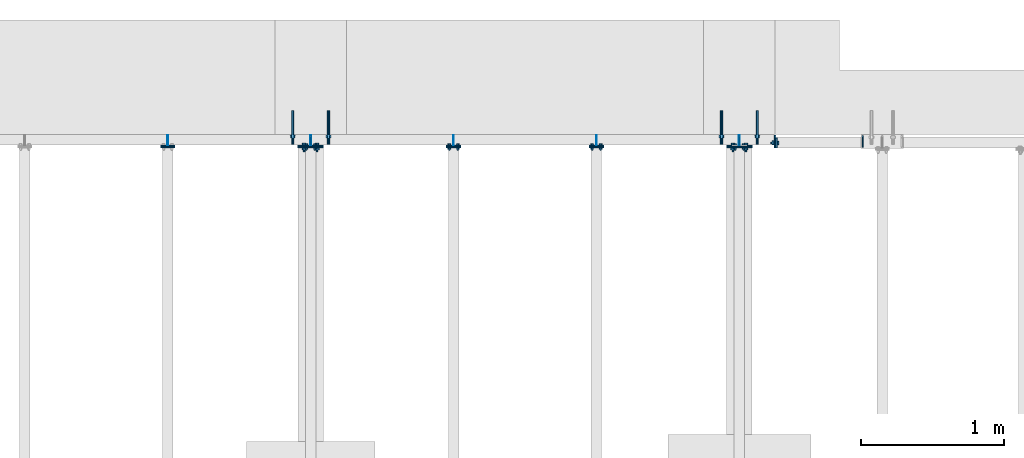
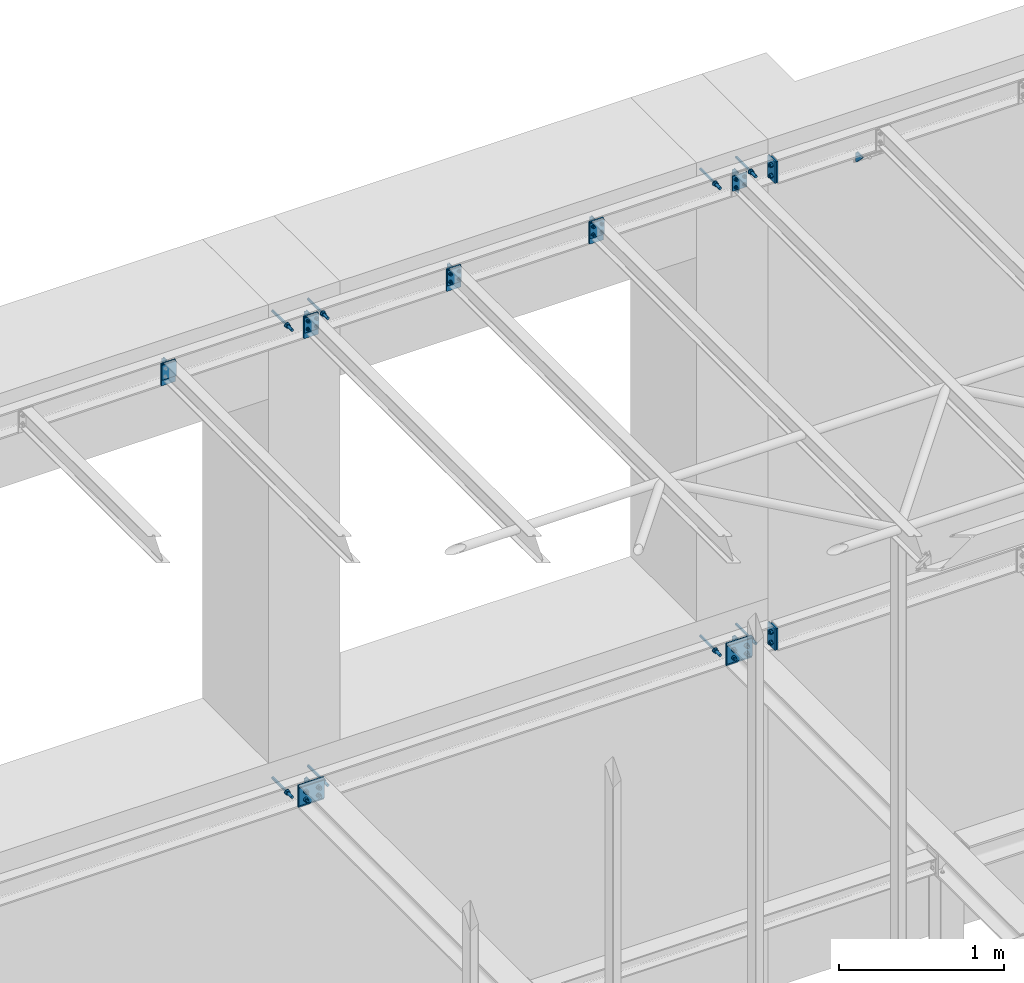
# One storey, part 20 of 23: 25 discrete accessories, 12 mechanical fasteners, 12 elements without a shape of their own.
"""IFC2X3 building model written with IfcOpenShell, lengths in millimetres."""

from ifc_helpers import new_model, si_unit, frame, frame_2d, origin_with_axes, origin_2d_with_axis, place, context, subcontext, project, spatial, polyline, circle_curve, parameter, trimmed, segment, composite_curve, circle, outline, extrude, source, transform, mapped, material, type_object, element, aggregate, save


model = new_model("IFC2X3")

# Units and contexts
model_context = context("Model", 3, precision=1e-05, world=origin_with_axes())
body_context = subcontext(model_context, "Body", "Model", "MODEL_VIEW")
ifc_project = project(units=[si_unit("LENGTHUNIT", "METRE", prefix="MILLI"), si_unit("AREAUNIT", "SQUARE_METRE"), si_unit("VOLUMEUNIT", "CUBIC_METRE"), si_unit("MASSUNIT", "GRAM", prefix="KILO"), si_unit("TIMEUNIT", "SECOND"), si_unit("PLANEANGLEUNIT", "RADIAN"), si_unit("SOLIDANGLEUNIT", "STERADIAN"), si_unit("THERMODYNAMICTEMPERATUREUNIT", "DEGREE_CELSIUS"), si_unit("LUMINOUSINTENSITYUNIT", "LUMEN")], contexts=[model_context])

# Site, building, storey
site_placement = place(None, origin_with_axes())
site = spatial("IfcSite", under=ifc_project, at=site_placement, Name="Undefined", CompositionType="ELEMENT")
building_placement = place(site_placement, origin_with_axes())
building = spatial("IfcBuilding", under=site, at=building_placement, Name="Undefined", CompositionType="ELEMENT")
storey_placement = place(building_placement, origin_with_axes())
storey = spatial("IfcBuildingStorey", under=building, at=storey_placement, Name="Undefined", CompositionType="ELEMENT", Elevation=0.0)

# Assembly, discrete accessory
assembly_1_placement = place(storey_placement, origin_with_axes())
assembly_1 = element("IfcElementAssembly", 1, at=assembly_1_placement, inside=storey, Name="Steel Assembly", AssemblyPlace="NOTDEFINED", PredefinedType="RIGID_FRAME")
ifc_material_1 = material(Name="STEEL/S235JR")
discrete_accessory_type_1 = type_object("IfcDiscreteAccessoryType", Name="PLECH")
discrete_accessory_1_placement = place(assembly_1_placement, frame((12300.0, 3855.0, -170.5), z_axis=(1.0, 0.0, 0.0), x_axis=(0.0, -1.0, 0.0)))
discrete_accessory_1 = element("IfcDiscreteAccessory", 2, at=discrete_accessory_1_placement, type_object=discrete_accessory_type_1, material=ifc_material_1, Name="PLECH", ObjectType="PL10*90", context=body_context, shape_type="SweptSolid", body=[
    extrude(outline(polyline([(0.0, 0.0), (90.0, 4.54747350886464e-13), (90.0, 159.0), (0.0, 159.0), (0.0, 0.0)])), frame((0.0, 0.0, -5.0), z_axis=(0.0, 0.0, 1.0), x_axis=(1.0, 0.0, 0.0)), (0.0, 0.0, 1.0), 10.0),
])

assembly_2_placement = place(storey_placement, origin_with_axes())
assembly_2 = element("IfcElementAssembly", 3, at=assembly_2_placement, inside=storey, Name="Steel Assembly", AssemblyPlace="NOTDEFINED", PredefinedType="RIGID_FRAME")
discrete_accessory_2_placement = place(assembly_2_placement, frame((12310.0, 3835.0, -170.5), z_axis=(1.0, 0.0, 0.0), x_axis=(0.0, -1.0, 0.0)))
discrete_accessory_2 = element("IfcDiscreteAccessory", 4, at=discrete_accessory_2_placement, type_object=discrete_accessory_type_1, material=ifc_material_1, Name="PLECH", ObjectType="PL10*70", context=body_context, shape_type="SweptSolid", body=[
    extrude(outline(polyline([(0.0, 0.0), (70.0, 4.54747350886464e-13), (70.0, 159.0), (0.0, 159.0), (0.0, 0.0)])), frame((0.0, 0.0, -5.0), z_axis=(0.0, 0.0, 1.0), x_axis=(1.0, 0.0, 0.0)), (0.0, 0.0, 1.0), 10.0),
])

assembly_3_placement = place(storey_placement, origin_with_axes())
assembly_3 = element("IfcElementAssembly", 5, at=assembly_3_placement, inside=storey, Name="Steel Assembly", AssemblyPlace="NOTDEFINED", PredefinedType="RIGID_FRAME")
discrete_accessory_3_placement = place(assembly_3_placement, frame((12300.0, 3855.0, 3289.5), z_axis=(1.0, 0.0, 0.0), x_axis=(0.0, -1.0, 0.0)))
discrete_accessory_3 = element("IfcDiscreteAccessory", 6, at=discrete_accessory_3_placement, type_object=discrete_accessory_type_1, material=ifc_material_1, Name="PLECH", ObjectType="PL10*90", context=body_context, shape_type="SweptSolid", body=[
    extrude(outline(polyline([(0.0, 0.0), (90.0, 4.54747350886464e-13), (90.0, 159.0), (0.0, 159.0), (0.0, 0.0)])), frame((0.0, 0.0, -5.0), z_axis=(0.0, 0.0, 1.0), x_axis=(1.0, 0.0, 0.0)), (0.0, 0.0, 1.0), 10.0),
])

assembly_4_placement = place(storey_placement, origin_with_axes())
assembly_4 = element("IfcElementAssembly", 7, at=assembly_4_placement, inside=storey, Name="Steel Assembly", AssemblyPlace="NOTDEFINED", PredefinedType="RIGID_FRAME")
discrete_accessory_4_placement = place(assembly_4_placement, frame((12310.0, 3835.0, 3289.5), z_axis=(1.0, 0.0, 0.0), x_axis=(0.0, -1.0, 0.0)))
discrete_accessory_4 = element("IfcDiscreteAccessory", 8, at=discrete_accessory_4_placement, type_object=discrete_accessory_type_1, material=ifc_material_1, Name="PLECH", ObjectType="PL10*70", context=body_context, shape_type="SweptSolid", body=[
    extrude(outline(polyline([(0.0, 0.0), (70.0, 4.54747350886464e-13), (70.0, 159.0), (0.0, 159.0), (0.0, 0.0)])), frame((0.0, 0.0, -5.0), z_axis=(0.0, 0.0, 1.0), x_axis=(1.0, 0.0, 0.0)), (0.0, 0.0, 1.0), 10.0),
])

assembly_5_placement = place(storey_placement, origin_with_axes())
assembly_5 = element("IfcElementAssembly", 9, at=assembly_5_placement, inside=storey, Name="Steel Assembly", AssemblyPlace="NOTDEFINED", PredefinedType="RIGID_FRAME")
discrete_accessory_5_placement = place(assembly_5_placement, frame((12914.0, 3770.0, 3110.0), z_axis=(-1.0, 0.0, 0.0), x_axis=(0.0, 1.0, 0.0)))
discrete_accessory_5 = element("IfcDiscreteAccessory", 10, at=discrete_accessory_5_placement, type_object=discrete_accessory_type_1, material=ifc_material_1, Name="PLECH", ObjectType="PL8*80", context=body_context, shape_type="SweptSolid", body=[
    extrude(outline(composite_curve([segment(polyline([(0.0, 0.0), (65.0, 0.0)]), True, "CONTINUOUS"), segment(trimmed(circle_curve(frame_2d((80.0, 0.0), x_axis=(-1.0, 0.0)), 15.0), [parameter(0.0)], [parameter(4.71238898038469)], False, "PARAMETER"), True, "CONTINUOUS"), segment(polyline([(80.0, 15.0), (80.0, 80.0), (70.0, 80.0), (0.0, 10.0), (0.0, 0.0)]), True, "DISCONTINUOUS")], self_intersect=False)), frame((0.0, 0.0, -4.0), z_axis=(0.0, 0.0, 1.0), x_axis=(1.0, 0.0, 0.0)), (0.0, 0.0, 1.0), 8.0),
])
aggregate(assembly_5, [discrete_accessory_5])

# Discrete accessory
discrete_accessory_6_placement = place(assembly_1_placement, frame((11960.0, 3780.0, -168.0), z_axis=(0.0, 1.0, 0.0), x_axis=(1.0, 0.0, 0.0)))
discrete_accessory_6 = element("IfcDiscreteAccessory", 11, at=discrete_accessory_6_placement, type_object=discrete_accessory_type_1, material=ifc_material_1, Name="PLECH", ObjectType="PL10*164", context=body_context, shape_type="SweptSolid", body=[
    extrude(outline(polyline([(0.0, 0.0), (180.0, 0.0), (180.0, 164.0), (0.0, 164.0), (0.0, 0.0)])), frame((0.0, 0.0, -5.0), z_axis=(0.0, 0.0, 1.0), x_axis=(1.0, 0.0, 0.0)), (0.0, 0.0, 1.0), 10.0),
])

discrete_accessory_7_placement = place(assembly_1_placement, frame((12050.0, 3785.0, -170.5), z_axis=(-1.0, 0.0, 0.0), x_axis=(0.0, 1.0, 0.0)))
discrete_accessory_7 = element("IfcDiscreteAccessory", 12, at=discrete_accessory_7_placement, type_object=discrete_accessory_type_1, material=ifc_material_1, Name="PLECH", ObjectType="PL8*70", context=body_context, shape_type="SweptSolid", body=[
    extrude(outline(composite_curve([segment(polyline([(0.0, 0.0), (49.5, 0.0)]), True, "CONTINUOUS"), segment(trimmed(circle_curve(frame_2d((69.5, 0.0), x_axis=(-1.0, 0.0)), 20.0), [parameter(0.0)], [parameter(4.71238898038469)], False, "PARAMETER"), True, "CONTINUOUS"), segment(polyline([(69.5, 20.0), (69.5, 139.0)]), True, "CONTINUOUS"), segment(trimmed(circle_curve(frame_2d((69.5, 159.0), x_axis=(0.0, -1.0)), 20.0), [parameter(0.0)], [parameter(4.71238898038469)], False, "PARAMETER"), True, "CONTINUOUS"), segment(polyline([(49.5, 159.0), (0.0, 159.0), (0.0, 0.0)]), True, "DISCONTINUOUS")], self_intersect=False)), frame((0.0, 0.0, -4.0), z_axis=(0.0, 0.0, 1.0), x_axis=(1.0, 0.0, 0.0)), (0.0, 0.0, 1.0), 8.0),
])

# Assembly, discrete accessory
assembly_6_placement = place(storey_placement, origin_with_axes())
assembly_6 = element("IfcElementAssembly", 13, at=assembly_6_placement, inside=storey, Name="Steel Assembly", AssemblyPlace="NOTDEFINED", PredefinedType="RIGID_FRAME")
discrete_accessory_8_placement = place(assembly_6_placement, frame((11960.0, 3771.0, -184.0), z_axis=(0.0, 1.0, 0.0), x_axis=(1.0, 0.0, 0.0)))
discrete_accessory_8 = element("IfcDiscreteAccessory", 14, at=discrete_accessory_8_placement, type_object=discrete_accessory_type_1, material=ifc_material_1, Name="PLECH", ObjectType="PL8*132", context=body_context, shape_type="SweptSolid", body=[
    extrude(outline(polyline([(0.0, 0.0), (180.0, 0.0), (180.0, 132.0), (0.0, 132.0), (0.0, 0.0)])), frame((0.0, 0.0, -4.0), z_axis=(0.0, 0.0, 1.0), x_axis=(1.0, 0.0, 0.0)), (0.0, 0.0, 1.0), 8.0),
])
aggregate(assembly_6, [discrete_accessory_8])

# Discrete accessory
discrete_accessory_9_placement = place(assembly_1_placement, frame((8960.0, 3780.0, -168.0), z_axis=(0.0, 1.0, 0.0), x_axis=(1.0, 0.0, 0.0)))
discrete_accessory_9 = element("IfcDiscreteAccessory", 15, at=discrete_accessory_9_placement, type_object=discrete_accessory_type_1, material=ifc_material_1, Name="PLECH", ObjectType="PL10*164", context=body_context, shape_type="SweptSolid", body=[
    extrude(outline(polyline([(0.0, 0.0), (180.0, 0.0), (180.0, 164.0), (0.0, 164.0), (0.0, 0.0)])), frame((0.0, 0.0, -5.0), z_axis=(0.0, 0.0, 1.0), x_axis=(1.0, 0.0, 0.0)), (0.0, 0.0, 1.0), 10.0),
])

discrete_accessory_10_placement = place(assembly_1_placement, frame((9050.0, 3785.0, -170.5), z_axis=(-1.0, 0.0, 0.0), x_axis=(0.0, 1.0, 0.0)))
discrete_accessory_10 = element("IfcDiscreteAccessory", 16, at=discrete_accessory_10_placement, type_object=discrete_accessory_type_1, material=ifc_material_1, Name="PLECH", ObjectType="PL8*70", context=body_context, shape_type="SweptSolid", body=[
    extrude(outline(composite_curve([segment(polyline([(0.0, 0.0), (49.5, 0.0)]), True, "CONTINUOUS"), segment(trimmed(circle_curve(frame_2d((69.5, 0.0), x_axis=(-1.0, 0.0)), 20.0), [parameter(0.0)], [parameter(4.71238898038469)], False, "PARAMETER"), True, "CONTINUOUS"), segment(polyline([(69.5, 20.0), (69.5, 139.0)]), True, "CONTINUOUS"), segment(trimmed(circle_curve(frame_2d((69.5, 159.0), x_axis=(0.0, -1.0)), 20.0), [parameter(0.0)], [parameter(4.71238898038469)], False, "PARAMETER"), True, "CONTINUOUS"), segment(polyline([(49.5, 159.0), (0.0, 159.0), (0.0, 0.0)]), True, "DISCONTINUOUS")], self_intersect=False)), frame((0.0, 0.0, -4.0), z_axis=(0.0, 0.0, 1.0), x_axis=(1.0, 0.0, 0.0)), (0.0, 0.0, 1.0), 8.0),
])

# Assembly, discrete accessory
assembly_7_placement = place(storey_placement, origin_with_axes())
assembly_7 = element("IfcElementAssembly", 17, at=assembly_7_placement, inside=storey, Name="Steel Assembly", AssemblyPlace="NOTDEFINED", PredefinedType="RIGID_FRAME")
discrete_accessory_11_placement = place(assembly_7_placement, frame((8960.0, 3771.0, -184.0), z_axis=(0.0, 1.0, 0.0), x_axis=(1.0, 0.0, 0.0)))
discrete_accessory_11 = element("IfcDiscreteAccessory", 18, at=discrete_accessory_11_placement, type_object=discrete_accessory_type_1, material=ifc_material_1, Name="PLECH", ObjectType="PL8*132", context=body_context, shape_type="SweptSolid", body=[
    extrude(outline(polyline([(0.0, 0.0), (180.0, 0.0), (180.0, 132.0), (0.0, 132.0), (0.0, 0.0)])), frame((0.0, 0.0, -4.0), z_axis=(0.0, 0.0, 1.0), x_axis=(1.0, 0.0, 0.0)), (0.0, 0.0, 1.0), 8.0),
])
aggregate(assembly_7, [discrete_accessory_11])

# Discrete accessory
discrete_accessory_12_placement = place(assembly_3_placement, frame((12050.0, 3785.0, 3289.5), z_axis=(-1.0, 0.0, 0.0), x_axis=(0.0, 1.0, 0.0)))
discrete_accessory_12 = element("IfcDiscreteAccessory", 19, at=discrete_accessory_12_placement, type_object=discrete_accessory_type_1, material=ifc_material_1, Name="PLECH", ObjectType="PL6*70", context=body_context, shape_type="SweptSolid", body=[
    extrude(outline(composite_curve([segment(polyline([(0.0, 0.0), (49.5, 0.0)]), True, "CONTINUOUS"), segment(trimmed(circle_curve(frame_2d((69.5, 0.0), x_axis=(-1.0, 0.0)), 20.0), [parameter(0.0)], [parameter(4.71238898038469)], False, "PARAMETER"), True, "CONTINUOUS"), segment(polyline([(69.5, 20.0), (69.5, 139.0)]), True, "CONTINUOUS"), segment(trimmed(circle_curve(frame_2d((69.5, 159.0), x_axis=(0.0, -1.0)), 20.0), [parameter(0.0)], [parameter(4.71238898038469)], False, "PARAMETER"), True, "CONTINUOUS"), segment(polyline([(49.5, 159.0), (0.0, 159.0), (0.0, 0.0)]), True, "DISCONTINUOUS")], self_intersect=False)), frame((0.0, 0.0, -3.0), z_axis=(0.0, 0.0, 1.0), x_axis=(1.0, 0.0, 0.0)), (0.0, 0.0, 1.0), 6.0),
])

# Assembly, discrete accessory
assembly_8_placement = place(storey_placement, origin_with_axes())
assembly_8 = element("IfcElementAssembly", 20, at=assembly_8_placement, inside=storey, Name="Steel Assembly", AssemblyPlace="NOTDEFINED", PredefinedType="RIGID_FRAME")
discrete_accessory_13_placement = place(assembly_8_placement, frame((12000.0, 3771.0, 3175.0), z_axis=(0.0, 1.0, 0.0), x_axis=(0.0, 0.0, 1.0)))
discrete_accessory_13 = element("IfcDiscreteAccessory", 21, at=discrete_accessory_13_placement, type_object=discrete_accessory_type_1, material=ifc_material_1, Name="PLECH", ObjectType="PL8*100", context=body_context, shape_type="SweptSolid", body=[
    extrude(outline(polyline([(0.0, 0.0), (110.0, 0.0), (110.0, 100.0), (-9.09494701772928e-13, 100.0), (0.0, 0.0)])), frame((0.0, 0.0, -4.0), z_axis=(0.0, 0.0, 1.0), x_axis=(1.0, 0.0, 0.0)), (0.0, 0.0, 1.0), 8.0),
])
aggregate(assembly_8, [discrete_accessory_13])

# Discrete accessory
discrete_accessory_14_placement = place(assembly_3_placement, frame((11050.0, 3785.0, 3289.5), z_axis=(-1.0, 0.0, 0.0), x_axis=(0.0, 1.0, 0.0)))
discrete_accessory_14 = element("IfcDiscreteAccessory", 22, at=discrete_accessory_14_placement, type_object=discrete_accessory_type_1, material=ifc_material_1, Name="PLECH", ObjectType="PL6*70", context=body_context, shape_type="SweptSolid", body=[
    extrude(outline(composite_curve([segment(polyline([(0.0, 0.0), (49.5, 0.0)]), True, "CONTINUOUS"), segment(trimmed(circle_curve(frame_2d((69.5, 0.0), x_axis=(-1.0, 0.0)), 20.0), [parameter(0.0)], [parameter(4.71238898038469)], False, "PARAMETER"), True, "CONTINUOUS"), segment(polyline([(69.5, 20.0), (69.5, 139.0)]), True, "CONTINUOUS"), segment(trimmed(circle_curve(frame_2d((69.5, 159.0), x_axis=(0.0, -1.0)), 20.0), [parameter(0.0)], [parameter(4.71238898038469)], False, "PARAMETER"), True, "CONTINUOUS"), segment(polyline([(49.5, 159.0), (0.0, 159.0), (0.0, 0.0)]), True, "DISCONTINUOUS")], self_intersect=False)), frame((0.0, 0.0, -3.0), z_axis=(0.0, 0.0, 1.0), x_axis=(1.0, 0.0, 0.0)), (0.0, 0.0, 1.0), 6.0),
])

# Assembly, discrete accessory
assembly_9_placement = place(storey_placement, origin_with_axes())
assembly_9 = element("IfcElementAssembly", 23, at=assembly_9_placement, inside=storey, Name="Steel Assembly", AssemblyPlace="NOTDEFINED", PredefinedType="RIGID_FRAME")
discrete_accessory_15_placement = place(assembly_9_placement, frame((11000.0, 3771.0, 3175.0), z_axis=(0.0, 1.0, 0.0), x_axis=(0.0, 0.0, 1.0)))
discrete_accessory_15 = element("IfcDiscreteAccessory", 24, at=discrete_accessory_15_placement, type_object=discrete_accessory_type_1, material=ifc_material_1, Name="PLECH", ObjectType="PL8*100", context=body_context, shape_type="SweptSolid", body=[
    extrude(outline(polyline([(0.0, 0.0), (110.0, 0.0), (110.0, 100.0), (-9.09494701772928e-13, 100.0), (0.0, 0.0)])), frame((0.0, 0.0, -4.0), z_axis=(0.0, 0.0, 1.0), x_axis=(1.0, 0.0, 0.0)), (0.0, 0.0, 1.0), 8.0),
])
aggregate(assembly_9, [discrete_accessory_15])

# Discrete accessory
discrete_accessory_16_placement = place(assembly_3_placement, frame((11000.0, 3780.0, 3128.0), z_axis=(0.0, 1.0, 0.0), x_axis=(0.0, 0.0, 1.0)))
discrete_accessory_16 = element("IfcDiscreteAccessory", 25, at=discrete_accessory_16_placement, type_object=discrete_accessory_type_1, material=ifc_material_1, Name="PLECH", ObjectType="PL10*100", context=body_context, shape_type="SweptSolid", body=[
    extrude(outline(polyline([(0.0, 0.0), (164.0, 4.54747350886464e-13), (164.0, 100.0), (-9.09494701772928e-13, 100.0), (0.0, 0.0)])), frame((0.0, 0.0, -5.0), z_axis=(0.0, 0.0, 1.0), x_axis=(1.0, 0.0, 0.0)), (0.0, 0.0, 1.0), 10.0),
])

discrete_accessory_17_placement = place(assembly_3_placement, frame((10050.0, 3785.0, 3289.5), z_axis=(-1.0, 0.0, 0.0), x_axis=(0.0, 1.0, 0.0)))
discrete_accessory_17 = element("IfcDiscreteAccessory", 26, at=discrete_accessory_17_placement, type_object=discrete_accessory_type_1, material=ifc_material_1, Name="PLECH", ObjectType="PL6*70", context=body_context, shape_type="SweptSolid", body=[
    extrude(outline(composite_curve([segment(polyline([(0.0, 0.0), (49.5, 0.0)]), True, "CONTINUOUS"), segment(trimmed(circle_curve(frame_2d((69.5, 0.0), x_axis=(-1.0, 0.0)), 20.0), [parameter(0.0)], [parameter(4.71238898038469)], False, "PARAMETER"), True, "CONTINUOUS"), segment(polyline([(69.5, 20.0), (69.5, 139.0)]), True, "CONTINUOUS"), segment(trimmed(circle_curve(frame_2d((69.5, 159.0), x_axis=(0.0, -1.0)), 20.0), [parameter(0.0)], [parameter(4.71238898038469)], False, "PARAMETER"), True, "CONTINUOUS"), segment(polyline([(49.5, 159.0), (0.0, 159.0), (0.0, 0.0)]), True, "DISCONTINUOUS")], self_intersect=False)), frame((0.0, 0.0, -3.0), z_axis=(0.0, 0.0, 1.0), x_axis=(1.0, 0.0, 0.0)), (0.0, 0.0, 1.0), 6.0),
])

# Assembly, discrete accessory
assembly_10_placement = place(storey_placement, origin_with_axes())
assembly_10 = element("IfcElementAssembly", 27, at=assembly_10_placement, inside=storey, Name="Steel Assembly", AssemblyPlace="NOTDEFINED", PredefinedType="RIGID_FRAME")
discrete_accessory_18_placement = place(assembly_10_placement, frame((10000.0, 3771.0, 3175.0), z_axis=(0.0, 1.0, 0.0), x_axis=(0.0, 0.0, 1.0)))
discrete_accessory_18 = element("IfcDiscreteAccessory", 28, at=discrete_accessory_18_placement, type_object=discrete_accessory_type_1, material=ifc_material_1, Name="PLECH", ObjectType="PL8*100", context=body_context, shape_type="SweptSolid", body=[
    extrude(outline(polyline([(0.0, 0.0), (110.0, 0.0), (110.0, 100.0), (-9.09494701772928e-13, 100.0), (0.0, 0.0)])), frame((0.0, 0.0, -4.0), z_axis=(0.0, 0.0, 1.0), x_axis=(1.0, 0.0, 0.0)), (0.0, 0.0, 1.0), 8.0),
])
aggregate(assembly_10, [discrete_accessory_18])

# Discrete accessory
discrete_accessory_19_placement = place(assembly_3_placement, frame((10000.0, 3780.0, 3128.0), z_axis=(0.0, 1.0, 0.0), x_axis=(0.0, 0.0, 1.0)))
discrete_accessory_19 = element("IfcDiscreteAccessory", 29, at=discrete_accessory_19_placement, type_object=discrete_accessory_type_1, material=ifc_material_1, Name="PLECH", ObjectType="PL10*100", context=body_context, shape_type="SweptSolid", body=[
    extrude(outline(polyline([(0.0, 0.0), (164.0, 4.54747350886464e-13), (164.0, 100.0), (-9.09494701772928e-13, 100.0), (0.0, 0.0)])), frame((0.0, 0.0, -5.0), z_axis=(0.0, 0.0, 1.0), x_axis=(1.0, 0.0, 0.0)), (0.0, 0.0, 1.0), 10.0),
])

discrete_accessory_20_placement = place(assembly_3_placement, frame((9050.0, 3785.0, 3289.5), z_axis=(-1.0, 0.0, 0.0), x_axis=(0.0, 1.0, 0.0)))
discrete_accessory_20 = element("IfcDiscreteAccessory", 30, at=discrete_accessory_20_placement, type_object=discrete_accessory_type_1, material=ifc_material_1, Name="PLECH", ObjectType="PL6*70", context=body_context, shape_type="SweptSolid", body=[
    extrude(outline(composite_curve([segment(polyline([(0.0, 0.0), (49.5, 0.0)]), True, "CONTINUOUS"), segment(trimmed(circle_curve(frame_2d((69.5, 0.0), x_axis=(-1.0, 0.0)), 20.0), [parameter(0.0)], [parameter(4.71238898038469)], False, "PARAMETER"), True, "CONTINUOUS"), segment(polyline([(69.5, 20.0), (69.5, 139.0)]), True, "CONTINUOUS"), segment(trimmed(circle_curve(frame_2d((69.5, 159.0), x_axis=(0.0, -1.0)), 20.0), [parameter(0.0)], [parameter(4.71238898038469)], False, "PARAMETER"), True, "CONTINUOUS"), segment(polyline([(49.5, 159.0), (0.0, 159.0), (0.0, 0.0)]), True, "DISCONTINUOUS")], self_intersect=False)), frame((0.0, 0.0, -3.0), z_axis=(0.0, 0.0, 1.0), x_axis=(1.0, 0.0, 0.0)), (0.0, 0.0, 1.0), 6.0),
])

# Assembly, discrete accessory
assembly_11_placement = place(storey_placement, origin_with_axes())
assembly_11 = element("IfcElementAssembly", 31, at=assembly_11_placement, inside=storey, Name="Steel Assembly", AssemblyPlace="NOTDEFINED", PredefinedType="RIGID_FRAME")
discrete_accessory_21_placement = place(assembly_11_placement, frame((9000.0, 3771.0, 3175.0), z_axis=(0.0, 1.0, 0.0), x_axis=(0.0, 0.0, 1.0)))
discrete_accessory_21 = element("IfcDiscreteAccessory", 32, at=discrete_accessory_21_placement, type_object=discrete_accessory_type_1, material=ifc_material_1, Name="PLECH", ObjectType="PL8*100", context=body_context, shape_type="SweptSolid", body=[
    extrude(outline(polyline([(0.0, 0.0), (110.0, 0.0), (110.0, 100.0), (-9.09494701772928e-13, 100.0), (0.0, 0.0)])), frame((0.0, 0.0, -4.0), z_axis=(0.0, 0.0, 1.0), x_axis=(1.0, 0.0, 0.0)), (0.0, 0.0, 1.0), 8.0),
])
aggregate(assembly_11, [discrete_accessory_21])

# Discrete accessory
discrete_accessory_22_placement = place(assembly_3_placement, frame((9000.0, 3780.0, 3128.0), z_axis=(0.0, 1.0, 0.0), x_axis=(0.0, 0.0, 1.0)))
discrete_accessory_22 = element("IfcDiscreteAccessory", 33, at=discrete_accessory_22_placement, type_object=discrete_accessory_type_1, material=ifc_material_1, Name="PLECH", ObjectType="PL10*100", context=body_context, shape_type="SweptSolid", body=[
    extrude(outline(polyline([(0.0, 0.0), (164.0, 4.54747350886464e-13), (164.0, 100.0), (-9.09494701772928e-13, 100.0), (0.0, 0.0)])), frame((0.0, 0.0, -5.0), z_axis=(0.0, 0.0, 1.0), x_axis=(1.0, 0.0, 0.0)), (0.0, 0.0, 1.0), 10.0),
])

discrete_accessory_23_placement = place(assembly_3_placement, frame((8050.0, 3785.0, 3289.5), z_axis=(-1.0, 0.0, 0.0), x_axis=(0.0, 1.0, 0.0)))
discrete_accessory_23 = element("IfcDiscreteAccessory", 34, at=discrete_accessory_23_placement, type_object=discrete_accessory_type_1, material=ifc_material_1, Name="PLECH", ObjectType="PL6*70", context=body_context, shape_type="SweptSolid", body=[
    extrude(outline(composite_curve([segment(polyline([(0.0, 0.0), (49.5, 0.0)]), True, "CONTINUOUS"), segment(trimmed(circle_curve(frame_2d((69.5, 0.0), x_axis=(-1.0, 0.0)), 20.0), [parameter(0.0)], [parameter(4.71238898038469)], False, "PARAMETER"), True, "CONTINUOUS"), segment(polyline([(69.5, 20.0), (69.5, 139.0)]), True, "CONTINUOUS"), segment(trimmed(circle_curve(frame_2d((69.5, 159.0), x_axis=(0.0, -1.0)), 20.0), [parameter(0.0)], [parameter(4.71238898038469)], False, "PARAMETER"), True, "CONTINUOUS"), segment(polyline([(49.5, 159.0), (0.0, 159.0), (0.0, 0.0)]), True, "DISCONTINUOUS")], self_intersect=False)), frame((0.0, 0.0, -3.0), z_axis=(0.0, 0.0, 1.0), x_axis=(1.0, 0.0, 0.0)), (0.0, 0.0, 1.0), 6.0),
])

# Assembly, discrete accessory
assembly_12_placement = place(storey_placement, origin_with_axes())
assembly_12 = element("IfcElementAssembly", 35, at=assembly_12_placement, inside=storey, Name="Steel Assembly", AssemblyPlace="NOTDEFINED", PredefinedType="RIGID_FRAME")
discrete_accessory_24_placement = place(assembly_12_placement, frame((8000.0, 3771.0, 3175.0), z_axis=(0.0, 1.0, 0.0), x_axis=(0.0, 0.0, 1.0)))
discrete_accessory_24 = element("IfcDiscreteAccessory", 36, at=discrete_accessory_24_placement, type_object=discrete_accessory_type_1, material=ifc_material_1, Name="PLECH", ObjectType="PL8*100", context=body_context, shape_type="SweptSolid", body=[
    extrude(outline(polyline([(0.0, 0.0), (110.0, 0.0), (110.0, 100.0), (-9.09494701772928e-13, 100.0), (0.0, 0.0)])), frame((0.0, 0.0, -4.0), z_axis=(0.0, 0.0, 1.0), x_axis=(1.0, 0.0, 0.0)), (0.0, 0.0, 1.0), 8.0),
])
aggregate(assembly_12, [discrete_accessory_24])

# Discrete accessory
discrete_accessory_25_placement = place(assembly_3_placement, frame((8000.0, 3780.0, 3128.0), z_axis=(0.0, 1.0, 0.0), x_axis=(0.0, 0.0, 1.0)))
discrete_accessory_25 = element("IfcDiscreteAccessory", 37, at=discrete_accessory_25_placement, type_object=discrete_accessory_type_1, material=ifc_material_1, Name="PLECH", ObjectType="PL10*100", context=body_context, shape_type="SweptSolid", body=[
    extrude(outline(polyline([(0.0, 0.0), (164.0, 4.54747350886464e-13), (164.0, 100.0), (-9.09494701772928e-13, 100.0), (0.0, 0.0)])), frame((0.0, 0.0, -5.0), z_axis=(0.0, 0.0, 1.0), x_axis=(1.0, 0.0, 0.0)), (0.0, 0.0, 1.0), 10.0),
])

# Mechanical fastener
ifc_material_2 = material(Name="Undefined")
discrete_accessory_type_2 = type_object("IfcDiscreteAccessoryType", Name="Bolt assembly")
shared_shape_1 = source(origin_with_axes(), body_context, "Body", "SweptSolid", [
    extrude(circle(Radius=9.0, at=origin_2d_with_axis()), frame((0.0, -0.1, 0.0), z_axis=(0.0, 1.0, 0.0), x_axis=(1.0, 0.0, 0.0)), (0.0, 0.0, 1.0), 10.1),
    extrude(circle(Radius=9.0, at=origin_2d_with_axis()), frame((0.0, -9.9, 0.0), z_axis=(0.0, 1.0, 0.0), x_axis=(1.0, 0.0, 0.0)), (0.0, 0.0, 1.0), 10.0),
    extrude(outline(polyline([(13.85640646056, 0.0), (6.92820323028, 12.0000000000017), (-6.92820323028, 12.0000000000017), (-13.85640646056, 0.0), (-6.92820323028, -12.0000000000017), (6.92820323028, -12.0000000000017), (13.85640646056, 0.0)])), frame((0.0, -23.0, 0.0), z_axis=(0.0, 1.0, 0.0), x_axis=(1.0, 0.0, 0.0)), (0.0, 0.0, 1.0), 10.0),
    extrude(circle(Radius=8.0, at=origin_2d_with_axis()), frame((0.0, -13.0, 0.0), z_axis=(0.0, 1.0, 0.0), x_axis=(1.0, 0.0, 0.0)), (0.0, 0.0, 1.0), 50.0),
    extrude(circle(Radius=15.0, at=origin_2d_with_axis()), frame((0.0, -13.0, 0.0), z_axis=(0.0, 1.0, 0.0), x_axis=(1.0, 0.0, 0.0)), (0.0, 0.0, 1.0), 3.0),
    extrude(circle(Radius=15.0, at=origin_2d_with_axis()), frame((0.0, 10.0, 0.0), z_axis=(0.0, 1.0, 0.0), x_axis=(1.0, 0.0, 0.0)), (0.0, 0.0, 1.0), 3.0),
    extrude(outline(polyline([(15.4441197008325, 0.0), (7.72205985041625, 13.3750000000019), (-7.72205985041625, 13.3750000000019), (-15.4441197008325, 0.0), (-7.72205985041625, -13.3750000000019), (7.72205985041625, -13.3750000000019), (15.4441197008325, 0.0)])), frame((0.0, 13.0, 0.0), z_axis=(0.0, 1.0, 0.0), x_axis=(1.0, 0.0, 0.0)), (0.0, 0.0, 1.0), 13.0),
])
mechanical_fastener_1_placement = place(assembly_2_placement, frame((12305.0, 3800.0, -249.999999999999), z_axis=(0.0, 0.0, 1.0), x_axis=(0.0, 1.0, 0.0)))
mechanical_fastener_1 = element("IfcMechanicalFastener", 38, at=mechanical_fastener_1_placement, type_object=discrete_accessory_type_2, material=ifc_material_2, Name="Bolt assembly", NominalDiameter=16.0, NominalLength=50.0, context=body_context, shape_type="MappedRepresentation", body=[
    mapped(shared_shape_1, transform((0.0, 0.0, -40.0))),
    mapped(shared_shape_1, transform((0.0, 0.0, 40.0))),
])

aggregate(assembly_2, [mechanical_fastener_1, discrete_accessory_2])

mechanical_fastener_2_placement = place(assembly_4_placement, frame((12305.0, 3800.0, 3210.0), z_axis=(0.0, 0.0, 1.0), x_axis=(0.0, 1.0, 0.0)))
mechanical_fastener_2 = element("IfcMechanicalFastener", 39, at=mechanical_fastener_2_placement, type_object=discrete_accessory_type_2, material=ifc_material_2, Name="Bolt assembly", NominalDiameter=16.0, NominalLength=50.0, context=body_context, shape_type="MappedRepresentation", body=[
    mapped(shared_shape_1, transform((0.0, 0.0, -40.0))),
    mapped(shared_shape_1, transform((0.0, 0.0, 40.0))),
])

aggregate(assembly_4, [mechanical_fastener_2, discrete_accessory_4])

shared_shape_2 = source(origin_with_axes(), body_context, "Body", "SweptSolid", [
    extrude(circle(Radius=11.0, at=origin_2d_with_axis()), frame((0.0, -5.5, 0.0), z_axis=(0.0, 1.0, 0.0), x_axis=(1.0, 0.0, 0.0)), (0.0, 0.0, 1.0), 5.6),
    extrude(outline(polyline([(9.81495457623, 0.0), (4.907477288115, 8.5000000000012), (-4.907477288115, 8.5000000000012), (-9.81495457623, 0.0), (-4.907477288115, -8.5000000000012), (4.907477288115, -8.5000000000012), (9.81495457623, 0.0)])), frame((0.0, -173.5, 0.0), z_axis=(0.0, 1.0, 0.0), x_axis=(1.0, 0.0, 0.0)), (0.0, 0.0, 1.0), 168.0),
    extrude(circle(Radius=10.0, at=origin_2d_with_axis()), frame((0.0, -5.5, 0.0), z_axis=(0.0, 1.0, 0.0), x_axis=(1.0, 0.0, 0.0)), (0.0, 0.0, 1.0), 72.0),
    extrude(circle(Radius=18.5, at=origin_2d_with_axis()), frame((0.0, 0.0, 0.0), z_axis=(0.0, 1.0, 0.0), x_axis=(1.0, 0.0, 0.0)), (0.0, 0.0, 1.0), 3.0),
    extrude(outline(polyline([(17.3205080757, 0.0), (8.66025403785, 15.0000000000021), (-8.66025403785, 15.0000000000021), (-17.3205080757, 0.0), (-8.66025403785, -15.0000000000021), (8.66025403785, -15.0000000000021), (17.3205080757, 0.0)])), frame((0.0, 3.0, 0.0), z_axis=(0.0, 1.0, 0.0), x_axis=(1.0, 0.0, 0.0)), (0.0, 0.0, 1.0), 16.0),
])
mechanical_fastener_3_placement = place(assembly_3_placement, frame((11925.0, 3854.5, 3210.0), z_axis=(0.0, 0.0, -1.0), x_axis=(1.0, 0.0, 0.0)))
mechanical_fastener_3 = element("IfcMechanicalFastener", 40, at=mechanical_fastener_3_placement, type_object=discrete_accessory_type_2, material=ifc_material_2, Name="Bolt assembly", NominalDiameter=20.0, NominalLength=72.0, context=body_context, shape_type="MappedRepresentation", body=[
    mapped(shared_shape_2, transform((0.0, 0.0, 0.0))),
    mapped(shared_shape_2, transform((250.0, 0.0, 0.0))),
])

mechanical_fastener_4_placement = place(assembly_3_placement, frame((8925.0, 3854.5, 3210.0), z_axis=(0.0, 0.0, -1.0), x_axis=(1.0, 0.0, 0.0)))
mechanical_fastener_4 = element("IfcMechanicalFastener", 41, at=mechanical_fastener_4_placement, type_object=discrete_accessory_type_2, material=ifc_material_2, Name="Bolt assembly", NominalDiameter=20.0, NominalLength=72.0, context=body_context, shape_type="MappedRepresentation", body=[
    mapped(shared_shape_2, transform((0.0, 0.0, 0.0))),
    mapped(shared_shape_2, transform((250.0, 0.0, 0.0))),
])

mechanical_fastener_5_placement = place(assembly_1_placement, frame((11925.0, 3854.5, -250.0), z_axis=(0.0, 0.0, -1.0), x_axis=(1.0, 0.0, 0.0)))
mechanical_fastener_5 = element("IfcMechanicalFastener", 42, at=mechanical_fastener_5_placement, type_object=discrete_accessory_type_2, material=ifc_material_2, Name="Bolt assembly", NominalDiameter=20.0, NominalLength=72.0, context=body_context, shape_type="MappedRepresentation", body=[
    mapped(shared_shape_2, transform((0.0, 0.0, 0.0))),
    mapped(shared_shape_2, transform((250.0, 0.0, 0.0))),
])

mechanical_fastener_6_placement = place(assembly_1_placement, frame((8925.0, 3854.5, -250.0), z_axis=(0.0, 0.0, -1.0), x_axis=(1.0, 0.0, 0.0)))
mechanical_fastener_6 = element("IfcMechanicalFastener", 43, at=mechanical_fastener_6_placement, type_object=discrete_accessory_type_2, material=ifc_material_2, Name="Bolt assembly", NominalDiameter=20.0, NominalLength=72.0, context=body_context, shape_type="MappedRepresentation", body=[
    mapped(shared_shape_2, transform((0.0, 0.0, 0.0))),
    mapped(shared_shape_2, transform((250.0, 0.0, 0.0))),
])

shared_shape_3 = source(origin_with_axes(), body_context, "Body", "SweptSolid", [
    extrude(circle(Radius=9.0, at=origin_2d_with_axis()), frame((0.0, -0.1, 0.0), z_axis=(0.0, 1.0, 0.0), x_axis=(1.0, 0.0, 0.0)), (0.0, 0.0, 1.0), 8.1),
    extrude(circle(Radius=9.0, at=origin_2d_with_axis()), frame((0.0, -9.9, 0.0), z_axis=(0.0, 1.0, 0.0), x_axis=(1.0, 0.0, 0.0)), (0.0, 0.0, 1.0), 10.0),
    extrude(outline(polyline([(13.85640646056, 0.0), (6.92820323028, 12.0000000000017), (-6.92820323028, 12.0000000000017), (-13.85640646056, 0.0), (-6.92820323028, -12.0000000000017), (6.92820323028, -12.0000000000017), (13.85640646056, 0.0)])), frame((0.0, -23.0, 0.0), z_axis=(0.0, 1.0, 0.0), x_axis=(1.0, 0.0, 0.0)), (0.0, 0.0, 1.0), 10.0),
    extrude(circle(Radius=8.0, at=origin_2d_with_axis()), frame((0.0, -13.0, 0.0), z_axis=(0.0, 1.0, 0.0), x_axis=(1.0, 0.0, 0.0)), (0.0, 0.0, 1.0), 50.0),
    extrude(circle(Radius=15.0, at=origin_2d_with_axis()), frame((0.0, -13.0, 0.0), z_axis=(0.0, 1.0, 0.0), x_axis=(1.0, 0.0, 0.0)), (0.0, 0.0, 1.0), 3.0),
    extrude(circle(Radius=15.0, at=origin_2d_with_axis()), frame((0.0, 8.0, 0.0), z_axis=(0.0, 1.0, 0.0), x_axis=(1.0, 0.0, 0.0)), (0.0, 0.0, 1.0), 3.0),
    extrude(outline(polyline([(15.4441197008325, 0.0), (7.72205985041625, 13.3750000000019), (-7.72205985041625, 13.3750000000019), (-15.4441197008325, 0.0), (-7.72205985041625, -13.3750000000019), (7.72205985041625, -13.3750000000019), (15.4441197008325, 0.0)])), frame((0.0, 11.0, 0.0), z_axis=(0.0, 1.0, 0.0), x_axis=(1.0, 0.0, 0.0)), (0.0, 0.0, 1.0), 13.0),
])
mechanical_fastener_7_placement = place(assembly_1_placement, frame((12005.0, 3775.0, -250.0), z_axis=(0.0, 0.0, -1.0), x_axis=(1.0, 0.0, 0.0)))
mechanical_fastener_7 = element("IfcMechanicalFastener", 44, at=mechanical_fastener_7_placement, type_object=discrete_accessory_type_2, material=ifc_material_2, Name="Bolt assembly", NominalDiameter=16.0, NominalLength=50.0, context=body_context, shape_type="MappedRepresentation", body=[
    mapped(shared_shape_3, transform((0.0, 0.0, -30.0))),
    mapped(shared_shape_3, transform((90.0, 0.0, -30.0))),
    mapped(shared_shape_3, transform((0.0, 0.0, 30.0))),
    mapped(shared_shape_3, transform((90.0, 0.0, 30.0))),
])

mechanical_fastener_8_placement = place(assembly_1_placement, frame((9005.0, 3775.0, -250.0), z_axis=(0.0, 0.0, -1.0), x_axis=(1.0, 0.0, 0.0)))
mechanical_fastener_8 = element("IfcMechanicalFastener", 45, at=mechanical_fastener_8_placement, type_object=discrete_accessory_type_2, material=ifc_material_2, Name="Bolt assembly", NominalDiameter=16.0, NominalLength=50.0, context=body_context, shape_type="MappedRepresentation", body=[
    mapped(shared_shape_3, transform((0.0, 0.0, -30.0))),
    mapped(shared_shape_3, transform((90.0, 0.0, -30.0))),
    mapped(shared_shape_3, transform((0.0, 0.0, 30.0))),
    mapped(shared_shape_3, transform((90.0, 0.0, 30.0))),
])

aggregate(assembly_1, [discrete_accessory_1, mechanical_fastener_5, mechanical_fastener_6, mechanical_fastener_7, discrete_accessory_6, discrete_accessory_7, mechanical_fastener_8, discrete_accessory_9, discrete_accessory_10])

shared_shape_4 = source(origin_with_axes(), body_context, "Body", "SweptSolid", [
    extrude(circle(Radius=6.5, at=origin_2d_with_axis()), frame((0.0, -0.1, 0.0), z_axis=(0.0, 1.0, 0.0), x_axis=(1.0, 0.0, 0.0)), (0.0, 0.0, 1.0), 8.1),
    extrude(circle(Radius=6.5, at=origin_2d_with_axis()), frame((0.0, -9.9, 0.0), z_axis=(0.0, 1.0, 0.0), x_axis=(1.0, 0.0, 0.0)), (0.0, 0.0, 1.0), 10.0),
    extrude(outline(polyline([(10.96965511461, 0.0), (5.484827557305, 9.50000000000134), (-5.484827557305, 9.50000000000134), (-10.96965511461, 0.0), (-5.484827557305, -9.50000000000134), (5.484827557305, -9.50000000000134), (10.96965511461, 0.0)])), frame((0.0, -20.0, 0.0), z_axis=(0.0, 1.0, 0.0), x_axis=(1.0, 0.0, 0.0)), (0.0, 0.0, 1.0), 7.5),
    extrude(circle(Radius=6.0, at=origin_2d_with_axis()), frame((0.0, -12.5, 0.0), z_axis=(0.0, 1.0, 0.0), x_axis=(1.0, 0.0, 0.0)), (0.0, 0.0, 1.0), 40.0),
    extrude(circle(Radius=12.0, at=origin_2d_with_axis()), frame((0.0, -12.5, 0.0), z_axis=(0.0, 1.0, 0.0), x_axis=(1.0, 0.0, 0.0)), (0.0, 0.0, 1.0), 2.5),
    extrude(circle(Radius=12.0, at=origin_2d_with_axis()), frame((0.0, 8.0, 0.0), z_axis=(0.0, 1.0, 0.0), x_axis=(1.0, 0.0, 0.0)), (0.0, 0.0, 1.0), 2.5),
    extrude(outline(polyline([(10.96965511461, 0.0), (5.484827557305, 9.50000000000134), (-5.484827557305, 9.50000000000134), (-10.96965511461, 0.0), (-5.484827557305, -9.50000000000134), (5.484827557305, -9.50000000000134), (10.96965511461, 0.0)])), frame((0.0, 10.5, 0.0), z_axis=(0.0, 1.0, 0.0), x_axis=(1.0, 0.0, 0.0)), (0.0, 0.0, 1.0), 10.0),
])
mechanical_fastener_9_placement = place(assembly_3_placement, frame((12020.0, 3775.0, 3230.0), z_axis=(0.0, 0.0, -1.0), x_axis=(1.0, 0.0, 0.0)))
mechanical_fastener_9 = element("IfcMechanicalFastener", 46, at=mechanical_fastener_9_placement, type_object=discrete_accessory_type_2, material=ifc_material_2, Name="Bolt assembly", NominalDiameter=12.0, NominalLength=40.0, context=body_context, shape_type="MappedRepresentation", body=[
    mapped(shared_shape_4, transform((0.0, 0.0, -30.0))),
    mapped(shared_shape_4, transform((60.0, 0.0, -30.0))),
    mapped(shared_shape_4, transform((0.0, 0.0, 30.0))),
    mapped(shared_shape_4, transform((60.0, 0.0, 30.0))),
])

mechanical_fastener_10_placement = place(assembly_3_placement, frame((11020.0, 3775.0, 3230.0), z_axis=(0.0, 0.0, -1.0), x_axis=(1.0, 0.0, 0.0)))
mechanical_fastener_10 = element("IfcMechanicalFastener", 47, at=mechanical_fastener_10_placement, type_object=discrete_accessory_type_2, material=ifc_material_2, Name="Bolt assembly", NominalDiameter=12.0, NominalLength=40.0, context=body_context, shape_type="MappedRepresentation", body=[
    mapped(shared_shape_4, transform((0.0, 0.0, -30.0))),
    mapped(shared_shape_4, transform((60.0, 0.0, -30.0))),
    mapped(shared_shape_4, transform((0.0, 0.0, 30.0))),
    mapped(shared_shape_4, transform((60.0, 0.0, 30.0))),
])

mechanical_fastener_11_placement = place(assembly_3_placement, frame((10020.0, 3775.0, 3230.0), z_axis=(0.0, 0.0, -1.0), x_axis=(1.0, 0.0, 0.0)))
mechanical_fastener_11 = element("IfcMechanicalFastener", 48, at=mechanical_fastener_11_placement, type_object=discrete_accessory_type_2, material=ifc_material_2, Name="Bolt assembly", NominalDiameter=12.0, NominalLength=40.0, context=body_context, shape_type="MappedRepresentation", body=[
    mapped(shared_shape_4, transform((0.0, 0.0, -30.0))),
    mapped(shared_shape_4, transform((60.0, 0.0, -30.0))),
    mapped(shared_shape_4, transform((0.0, 0.0, 30.0))),
    mapped(shared_shape_4, transform((60.0, 0.0, 30.0))),
])

mechanical_fastener_12_placement = place(assembly_3_placement, frame((9020.0, 3775.0, 3230.0), z_axis=(0.0, 0.0, -1.0), x_axis=(1.0, 0.0, 0.0)))
mechanical_fastener_12 = element("IfcMechanicalFastener", 49, at=mechanical_fastener_12_placement, type_object=discrete_accessory_type_2, material=ifc_material_2, Name="Bolt assembly", NominalDiameter=12.0, NominalLength=40.0, context=body_context, shape_type="MappedRepresentation", body=[
    mapped(shared_shape_4, transform((0.0, 0.0, -30.0))),
    mapped(shared_shape_4, transform((60.0, 0.0, -30.0))),
    mapped(shared_shape_4, transform((0.0, 0.0, 30.0))),
    mapped(shared_shape_4, transform((60.0, 0.0, 30.0))),
])

aggregate(assembly_3, [discrete_accessory_3, mechanical_fastener_3, mechanical_fastener_4, mechanical_fastener_9, discrete_accessory_12, mechanical_fastener_10, discrete_accessory_14, discrete_accessory_16, mechanical_fastener_11, discrete_accessory_17, discrete_accessory_19, mechanical_fastener_12, discrete_accessory_20, discrete_accessory_22, discrete_accessory_23, discrete_accessory_25])

save(model, "model.ifc")
